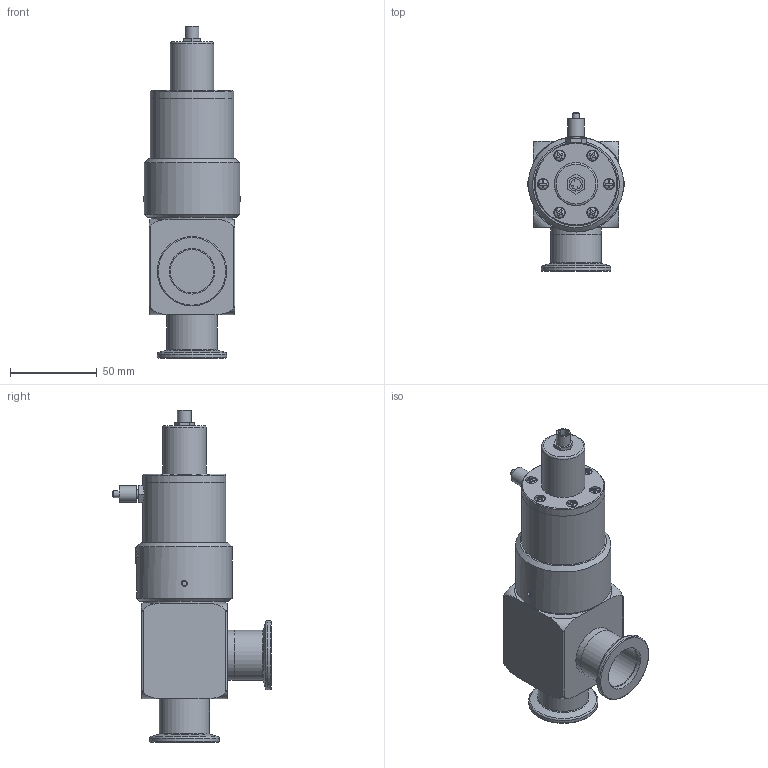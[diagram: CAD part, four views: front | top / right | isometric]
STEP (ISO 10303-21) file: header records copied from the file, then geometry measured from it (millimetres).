
FILE_DESCRIPTION( ( 'Unknown' ), '1' );
FILE_NAME( 'X:/Daten ( aktueller Bestand )/Projekte und Zeichnungen/Solid Edge/STP-Dateien/Eck-Durchg.ventile el.pneumatisch/311421.stp', 'Unknown', ( 'Unknown' ), ( 'Unknown' ), 'PSStep 14.0', 'Unknown', ' ' );
FILE_SCHEMA( ( 'AUTOMOTIVE_DESIGN { 1 0 10303 214 1 1 1 1 }' ) );
Length unit declared in the file: millimetre
Products named in the file (10): Assem1; Eckvent. 25 Koerper; Eckvent.25 Stutzen; 3104-1; 3102-2; M3x4; 3102-5; 3102-6; Anschluss Festo; Schraube_3x8
Assembly tree (15 placements, depth 2):
  Assem1
    Eckvent. 25 Koerper
    Eckvent.25 Stutzen
    3104-1
    3102-2
    M3x4  x2
    3102-5
    3102-6
    Anschluss Festo
    Schraube_3x8  x6
Bounding box: 56 x 91.2 x 191.5 mm (x, y, z)
Volume: 289549.7 mm3; surface area: 70150.4 mm2
Topology: 15 solids, 15 shells, 300 faces, 677 edges, 447 vertices
Faces by surface type: plane 171, cylinder 80, cone 27, torus 16, sphere 6
Full cylindrical faces by diameter (mm): 0.213 x1, 0.5 x3, 2 x1, 2.459 x6, 2.8 x1, 3 x8, 3.242 x2, 3.3 x6, 4 x1, 4.134 x2, 5 x2, 5.793 x6, 6 x2, 6.5 x6, 7.459 x1, 8 x1, 9.518 x1, 10 x1, 10.3 x1, 12 x1, 12.812 x1, 19 x1, 20 x1, 25 x4, 26 x1, 26.2 x2, 28.95 x1, 29 x3, 33.739 x1, 37.97 x1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
Entity records: 7243 total; most frequent: CARTESIAN_POINT 1685, DIRECTION 834, ORIENTED_EDGE 576, AXIS2_PLACEMENT_3D 370, EDGE_LOOP 353, EDGE_CURVE 288, FACE_OUTER_BOUND 269, VERTEX_POINT 248
